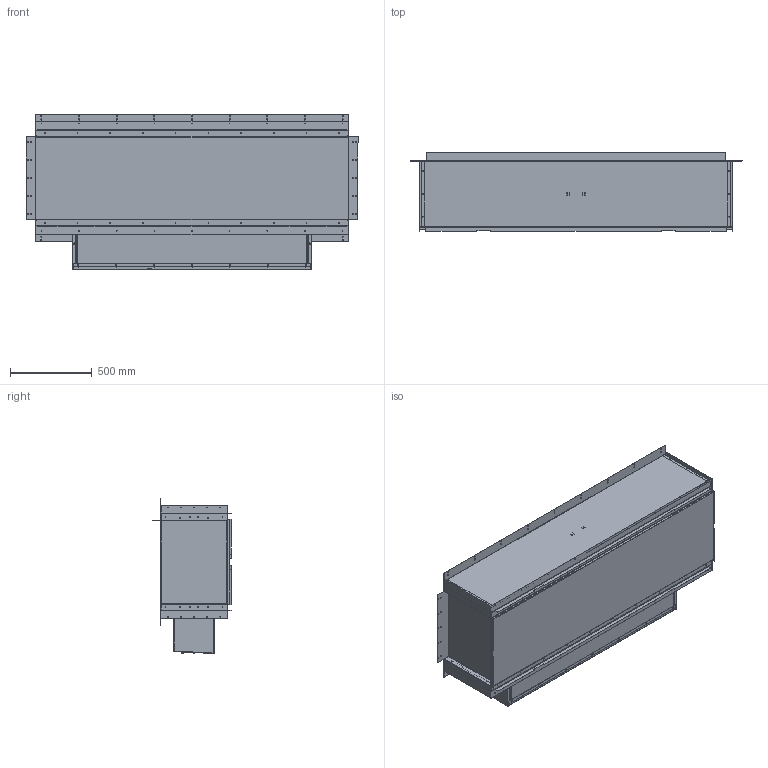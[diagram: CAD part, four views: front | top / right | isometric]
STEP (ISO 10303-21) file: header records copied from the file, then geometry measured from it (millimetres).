
FILE_DESCRIPTION (( 'STEP AP214' ), '1' );
FILE_NAME ('3d_Forma_1800_Single-Sided_FLA3.STEP', '2022-07-11T08:35:08', ( '' ), ( '' ), 'SwSTEP 2.0', 'SolidWorks 2019', '' );
FILE_SCHEMA (( 'AUTOMOTIVE_DESIGN' ));
Length unit declared in the file: millimetre
Products named in the file (49): 000059955; 000100551; Nakrêtka wciskana_Sariv S-S M3-3; 000-049-326_000-049-326-1490; 000061618_000061618_72; 000057000_000057000_72; 000-046-432; 000-050-969_000-050-969-1490; 000057657_000057657_72; 024-324-324; 000060277_000060277_72; B-003-090; ok1585_ok1585-1490; 000-049-813; 000059948_000059948-1490; B-000-460; 000-042-826_000-042-826-1490; PZ-FLA3XT-0003; B-003-094; 000-056-483_000-056-483_72; 3d_Forma_1800_Single-Sided_FLA3; ES-0316_0; 000064026; B-003-087_B-003-087-1490; 000-056-471; 000-056-474_000-056-474_72; 000-056-473_000-056-473_72; 000-056-480_000-056-480_72; 000060281_000060281_72; Ko³ek gwintowany do zgrzewania_ISO 13918 M4x10; 000-051-004; 000060280_000060280_72; hex tapping screws_iso_Tapping Screw ISO 14585 - ST4.2 x 9.5-C-N; 000057660; ok1271-08; ok1586; 000060313; 000059906; 000060275_000060275_72; 000-052-264_000-052-264 (L=710)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
Assembly tree (95 placements, depth 4):
  3d_Forma_1800_Single-Sided_FLA3
    000061618_000061618_72
      000-056-480_000-056-480_72
        000-056-473_000-056-473_72
        000-056-474_000-056-474_72
      000057657_000057657_72
      000057659_000057659_72
      000057660
    000-056-471  x2
    000-056-483_000-056-483_72
    000-056-486_000-056-486_72
    000057000_000057000_72
    000060281_000060281_72
      000060275_000060275_72
      000060277_000060277_72
      000060280_000060280_72
      000060313  x2
      000069177  x2
    000059785_000059785-1490
      000-049-267_000-049-267-1490
        000-049-266_000-049-266-1490
        Ko³ek gwintowany do zgrzewania_ISO 13918 M4x10  x22
        Nakrêtka wciskana_Sariv S-S M3-3  x4
      000-050-969_000-050-969-1490  x2
      000059948_000059948-1490  x2
      000-049-326_000-049-326-1490
      000-042-826_000-042-826-1490  x2
      000-049-813
        024-324-324
        Ko³ek gwintowany do zgrzewania_ISO 13918 M4x10  x2
      ES-0316_0  x4
      000-052-264_000-052-264 (L=710)  x2
      ok1585_ok1585-1490
        B-003-087_B-003-087-1490
        B-003-090  x2
        B-000-460  x4
        B-003-094
        B-000-462
        000-051-004
      000059955
      PZ-FLA3XT-0003
      ok1586
      hex tapping screws_iso_Tapping Screw ISO 14585 - ST4.2 x 9.5-C-N  x2
      000059906
      000-046-432  x4
      ok1271-08  x4
      KEYSTONE 5228
      000064025
      000064026
      000100551
Bounding box: 2029 x 481 x 949.71 mm (x, y, z)
Volume: 12113869.2 mm3; surface area: 19953185.8 mm2
Topology: 101 solids, 101 shells, 4346 faces, 11448 edges, 7343 vertices
Faces by surface type: cylinder 2377, plane 1672, cone 196, bspline 49, torus 48, sphere 4
Entity records: 118162 total; most frequent: CARTESIAN_POINT 24897, DIRECTION 19820, ORIENTED_EDGE 18208, EDGE_CURVE 9104, AXIS2_PLACEMENT_3D 7423, VERTEX_POINT 5868, VECTOR 4974, LINE 4974
